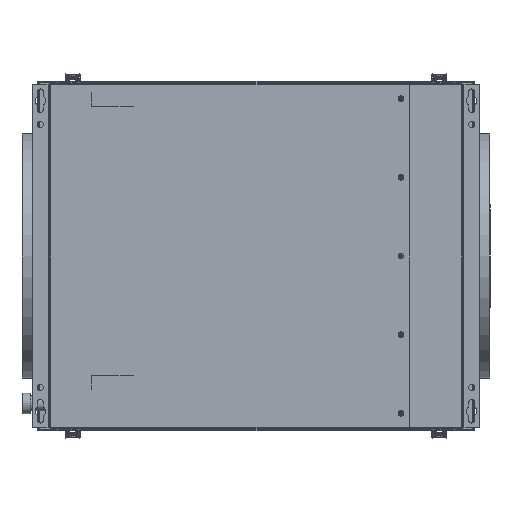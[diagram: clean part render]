
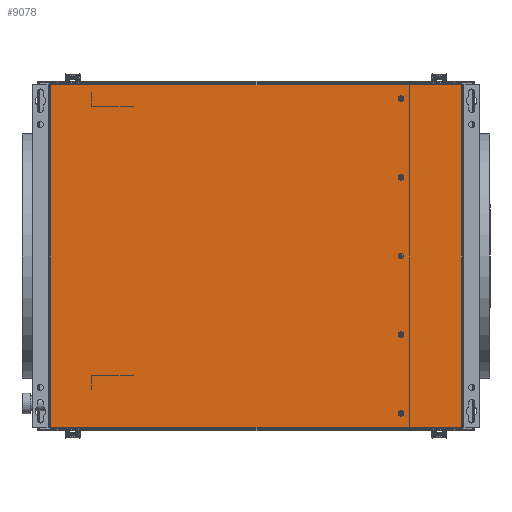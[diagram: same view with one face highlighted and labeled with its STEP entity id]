
A CAD part, front view. The second image highlights one B-rep face of the part: STEP entity #9078.
In plain terms, the highlighted planar face has unit normal (0, -1, 0).
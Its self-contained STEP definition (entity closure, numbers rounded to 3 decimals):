
#303 = VERTEX_POINT ( 'NONE', #16360 ) ;
#684 = VECTOR ( 'NONE', #862, 1000. ) ;
#779 = EDGE_CURVE ( 'NONE', #29955, #3070, #17330, .T. ) ;
#862 = DIRECTION ( 'NONE',  ( -1., 0., 0. ) ) ;
#1275 = DIRECTION ( 'NONE',  ( 0., -1., 0. ) ) ;
#2460 = AXIS2_PLACEMENT_3D ( 'NONE', #11580, #27754, #13895 ) ;
#2531 = VERTEX_POINT ( 'NONE', #21272 ) ;
#2571 = ORIENTED_EDGE ( 'NONE', *, *, #16524, .F. ) ;
#2608 = AXIS2_PLACEMENT_3D ( 'NONE', #20326, #6494, #22659 ) ;
#3070 = VERTEX_POINT ( 'NONE', #26700 ) ;
#3508 = AXIS2_PLACEMENT_3D ( 'NONE', #9335, #25524, #11674 ) ;
#3543 = CARTESIAN_POINT ( 'NONE',  ( 210., 0., 228. ) ) ;
#4110 = VERTEX_POINT ( 'NONE', #5388 ) ;
#4338 = ORIENTED_EDGE ( 'NONE', *, *, #18721, .T. ) ;
#4668 = CIRCLE ( 'NONE', #16763, 2.1 ) ;
#4965 = FACE_OUTER_BOUND ( 'NONE', #15918, .T. ) ;
#5233 = CARTESIAN_POINT ( 'NONE',  ( 210., 0., 2.1 ) ) ;
#5388 = CARTESIAN_POINT ( 'NONE',  ( 210., 0., -2.1 ) ) ;
#5742 = AXIS2_PLACEMENT_3D ( 'NONE', #13896, #30048, #16206 ) ;
#5896 = DIRECTION ( 'NONE',  ( 0., 0., -1. ) ) ;
#6343 = CIRCLE ( 'NONE', #2460, 2.1 ) ;
#6364 = EDGE_LOOP ( 'NONE', ( #10055, #22205 ) ) ;
#6494 = DIRECTION ( 'NONE',  ( 0., -1., 0. ) ) ;
#7601 = AXIS2_PLACEMENT_3D ( 'NONE', #3543, #19749, #5896 ) ;
#7613 = VERTEX_POINT ( 'NONE', #26920 ) ;
#8118 = AXIS2_PLACEMENT_3D ( 'NONE', #10499, #1275, #17466 ) ;
#8219 = CARTESIAN_POINT ( 'NONE',  ( 210., 0., 228. ) ) ;
#8718 = VECTOR ( 'NONE', #19968, 1000. ) ;
#8885 = VERTEX_POINT ( 'NONE', #23453 ) ;
#8888 = DIRECTION ( 'NONE',  ( 0., -1., 0. ) ) ;
#9078 = ADVANCED_FACE ( 'NONE', ( #11129, #17266, #4965, #28833, #29543, #22679 ), #17370, .T. ) ;
#9309 = ORIENTED_EDGE ( 'NONE', *, *, #23886, .T. ) ;
#9335 = CARTESIAN_POINT ( 'NONE',  ( 210., 0., 114. ) ) ;
#9608 = CARTESIAN_POINT ( 'NONE',  ( 297., 0., -248. ) ) ;
#9773 = DIRECTION ( 'NONE',  ( 0., 0., -1. ) ) ;
#10036 = CIRCLE ( 'NONE', #24168, 2.1 ) ;
#10055 = ORIENTED_EDGE ( 'NONE', *, *, #19958, .F. ) ;
#10499 = CARTESIAN_POINT ( 'NONE',  ( 299., 0., 250. ) ) ;
#10517 = DIRECTION ( 'NONE',  ( 0., 0., -1. ) ) ;
#10533 = CARTESIAN_POINT ( 'NONE',  ( 210., 0., -230.1 ) ) ;
#10611 = EDGE_CURVE ( 'NONE', #303, #8885, #26996, .T. ) ;
#10669 = VERTEX_POINT ( 'NONE', #10737 ) ;
#10720 = DIRECTION ( 'NONE',  ( 0., -1., 0. ) ) ;
#10737 = CARTESIAN_POINT ( 'NONE',  ( -297., 0., -248. ) ) ;
#10778 = CARTESIAN_POINT ( 'NONE',  ( -297., 0., 248. ) ) ;
#11062 = VERTEX_POINT ( 'NONE', #14639 ) ;
#11129 = FACE_BOUND ( 'NONE', #23928, .T. ) ;
#11287 = CIRCLE ( 'NONE', #7601, 2.1 ) ;
#11580 = CARTESIAN_POINT ( 'NONE',  ( 210., 0., 0. ) ) ;
#11674 = DIRECTION ( 'NONE',  ( 0., 0., -1. ) ) ;
#12116 = ORIENTED_EDGE ( 'NONE', *, *, #13929, .F. ) ;
#12157 = EDGE_LOOP ( 'NONE', ( #21542, #29342 ) ) ;
#13387 = CARTESIAN_POINT ( 'NONE',  ( 210., 0., 116.1 ) ) ;
#13532 = DIRECTION ( 'NONE',  ( 0., -1., 0. ) ) ;
#13820 = DIRECTION ( 'NONE',  ( 0., -1., 0. ) ) ;
#13895 = DIRECTION ( 'NONE',  ( 0., 0., -1. ) ) ;
#13896 = CARTESIAN_POINT ( 'NONE',  ( 210., 0., 0. ) ) ;
#13929 = EDGE_CURVE ( 'NONE', #11062, #20469, #4668, .T. ) ;
#14486 = VERTEX_POINT ( 'NONE', #10778 ) ;
#14554 = EDGE_CURVE ( 'NONE', #15700, #4110, #26354, .T. ) ;
#14639 = CARTESIAN_POINT ( 'NONE',  ( 210., 0., 111.9 ) ) ;
#15349 = CARTESIAN_POINT ( 'NONE',  ( 210., 0., -225.9 ) ) ;
#15484 = EDGE_CURVE ( 'NONE', #27617, #29628, #10036, .T. ) ;
#15700 = VERTEX_POINT ( 'NONE', #5233 ) ;
#15892 = ORIENTED_EDGE ( 'NONE', *, *, #15484, .F. ) ;
#15918 = EDGE_LOOP ( 'NONE', ( #9309, #4338, #25807, #29306 ) ) ;
#16206 = DIRECTION ( 'NONE',  ( 0., 0., -1. ) ) ;
#16360 = CARTESIAN_POINT ( 'NONE',  ( 210., 0., 225.9 ) ) ;
#16524 = EDGE_CURVE ( 'NONE', #29628, #27617, #25527, .T. ) ;
#16763 = AXIS2_PLACEMENT_3D ( 'NONE', #24557, #10720, #26871 ) ;
#17028 = EDGE_LOOP ( 'NONE', ( #19082, #20043 ) ) ;
#17033 = EDGE_CURVE ( 'NONE', #4110, #15700, #6343, .T. ) ;
#17113 = VECTOR ( 'NONE', #9773, 1000. ) ;
#17266 = FACE_BOUND ( 'NONE', #17028, .T. ) ;
#17301 = AXIS2_PLACEMENT_3D ( 'NONE', #27392, #13532, #29682 ) ;
#17330 = LINE ( 'NONE', #9608, #29606 ) ;
#17370 = PLANE ( 'NONE',  #8118 ) ;
#17466 = DIRECTION ( 'NONE',  ( 0., 0., -1. ) ) ;
#18181 = AXIS2_PLACEMENT_3D ( 'NONE', #27695, #13820, #29985 ) ;
#18721 = EDGE_CURVE ( 'NONE', #14486, #10669, #23246, .T. ) ;
#19082 = ORIENTED_EDGE ( 'NONE', *, *, #10611, .F. ) ;
#19156 = EDGE_CURVE ( 'NONE', #20469, #11062, #28650, .T. ) ;
#19377 = EDGE_CURVE ( 'NONE', #8885, #303, #11287, .T. ) ;
#19633 = CIRCLE ( 'NONE', #2608, 2.1 ) ;
#19749 = DIRECTION ( 'NONE',  ( 0., -1., 0. ) ) ;
#19958 = EDGE_CURVE ( 'NONE', #7613, #2531, #29519, .T. ) ;
#19968 = DIRECTION ( 'NONE',  ( 1., 0., 0. ) ) ;
#20043 = ORIENTED_EDGE ( 'NONE', *, *, #19377, .F. ) ;
#20326 = CARTESIAN_POINT ( 'NONE',  ( 210., 0., -114. ) ) ;
#20469 = VERTEX_POINT ( 'NONE', #13387 ) ;
#21272 = CARTESIAN_POINT ( 'NONE',  ( 210., 0., -111.9 ) ) ;
#21542 = ORIENTED_EDGE ( 'NONE', *, *, #17033, .F. ) ;
#22112 = EDGE_CURVE ( 'NONE', #2531, #7613, #19633, .T. ) ;
#22205 = ORIENTED_EDGE ( 'NONE', *, *, #22112, .F. ) ;
#22659 = DIRECTION ( 'NONE',  ( 0., 0., -1. ) ) ;
#22679 = FACE_BOUND ( 'NONE', #25880, .T. ) ;
#22717 = CARTESIAN_POINT ( 'NONE',  ( 210., 0., -228. ) ) ;
#23026 = DIRECTION ( 'NONE',  ( 0., 0., 1. ) ) ;
#23067 = EDGE_CURVE ( 'NONE', #10669, #29955, #26453, .T. ) ;
#23246 = LINE ( 'NONE', #23619, #17113 ) ;
#23453 = CARTESIAN_POINT ( 'NONE',  ( 210., 0., 230.1 ) ) ;
#23614 = CARTESIAN_POINT ( 'NONE',  ( 297., 0., -248. ) ) ;
#23619 = CARTESIAN_POINT ( 'NONE',  ( -297., 0., 248. ) ) ;
#23886 = EDGE_CURVE ( 'NONE', #3070, #14486, #25319, .T. ) ;
#23928 = EDGE_LOOP ( 'NONE', ( #12116, #24394 ) ) ;
#24168 = AXIS2_PLACEMENT_3D ( 'NONE', #22717, #8888, #25053 ) ;
#24379 = DIRECTION ( 'NONE',  ( 0., -1., 0. ) ) ;
#24394 = ORIENTED_EDGE ( 'NONE', *, *, #19156, .F. ) ;
#24557 = CARTESIAN_POINT ( 'NONE',  ( 210., 0., 114. ) ) ;
#24716 = CARTESIAN_POINT ( 'NONE',  ( -299., 0., -248. ) ) ;
#25053 = DIRECTION ( 'NONE',  ( 0., 0., -1. ) ) ;
#25319 = LINE ( 'NONE', #28587, #684 ) ;
#25524 = DIRECTION ( 'NONE',  ( 0., -1., 0. ) ) ;
#25527 = CIRCLE ( 'NONE', #18181, 2.1 ) ;
#25807 = ORIENTED_EDGE ( 'NONE', *, *, #23067, .T. ) ;
#25880 = EDGE_LOOP ( 'NONE', ( #15892, #2571 ) ) ;
#26354 = CIRCLE ( 'NONE', #5742, 2.1 ) ;
#26453 = LINE ( 'NONE', #24716, #8718 ) ;
#26700 = CARTESIAN_POINT ( 'NONE',  ( 297., 0., 248. ) ) ;
#26871 = DIRECTION ( 'NONE',  ( 0., 0., -1. ) ) ;
#26920 = CARTESIAN_POINT ( 'NONE',  ( 210., 0., -116.1 ) ) ;
#26996 = CIRCLE ( 'NONE', #29847, 2.1 ) ;
#27392 = CARTESIAN_POINT ( 'NONE',  ( 210., 0., -114. ) ) ;
#27617 = VERTEX_POINT ( 'NONE', #10533 ) ;
#27695 = CARTESIAN_POINT ( 'NONE',  ( 210., 0., -228. ) ) ;
#27754 = DIRECTION ( 'NONE',  ( 0., -1., 0. ) ) ;
#28587 = CARTESIAN_POINT ( 'NONE',  ( 299., 0., 248. ) ) ;
#28650 = CIRCLE ( 'NONE', #3508, 2.1 ) ;
#28833 = FACE_BOUND ( 'NONE', #12157, .T. ) ;
#29306 = ORIENTED_EDGE ( 'NONE', *, *, #779, .T. ) ;
#29342 = ORIENTED_EDGE ( 'NONE', *, *, #14554, .F. ) ;
#29519 = CIRCLE ( 'NONE', #17301, 2.1 ) ;
#29543 = FACE_BOUND ( 'NONE', #6364, .T. ) ;
#29606 = VECTOR ( 'NONE', #23026, 1000. ) ;
#29628 = VERTEX_POINT ( 'NONE', #15349 ) ;
#29682 = DIRECTION ( 'NONE',  ( 0., 0., -1. ) ) ;
#29847 = AXIS2_PLACEMENT_3D ( 'NONE', #8219, #24379, #10517 ) ;
#29955 = VERTEX_POINT ( 'NONE', #23614 ) ;
#29985 = DIRECTION ( 'NONE',  ( 0., 0., -1. ) ) ;
#30048 = DIRECTION ( 'NONE',  ( 0., -1., 0. ) ) ;
